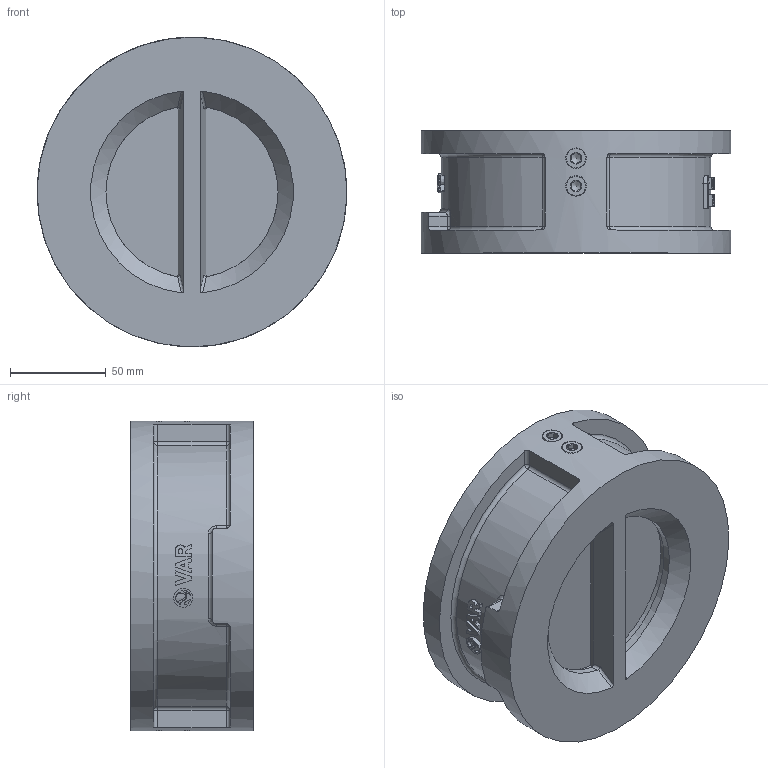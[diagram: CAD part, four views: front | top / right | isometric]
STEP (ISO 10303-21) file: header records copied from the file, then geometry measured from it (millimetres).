
FILE_DESCRIPTION(('STEP AP203'), '1');
FILE_NAME('VAR ZETKA 钺疣蝽 觌囡囗', '', ('UNSPECIFIED'), ('UNSPECIFIED'), 'C3D Converter', 'C3D Toolkit', '');
FILE_SCHEMA(('CONFIG_CONTROL_DESIGN'));
Length unit declared in the file: millimetre
Assembly tree (18 placements, depth 2):
  (unnamed)
    (unnamed)
    (unnamed)  x2
    (unnamed)  x4
    (unnamed)
    (unnamed)  x2
    (unnamed)  x2
    (unnamed)  x2
    (unnamed)  x2
    (unnamed)  x2
Bounding box: 162 x 64 x 162 mm (x, y, z)
Volume: 641957.4 mm3; surface area: 158887.5 mm2
Topology: 33 solids, 33 shells, 562 faces, 1372 edges, 890 vertices
Faces by surface type: plane 251, extrusion 138, cylinder 117, bspline 20, cone 18, sphere 10, torus 8
Full cylindrical faces by diameter (mm): 2 x2, 4 x4, 6 x8, 9.72 x16, 9.868 x1, 10 x4, 10.8 x4, 15.72 x6, 109.5 x1, 117 x2, 162 x1
Entity records: 30447 total; most frequent: CARTESIAN_POINT 17606, ORIENTED_EDGE 2118, DIRECTION 1635, EDGE_CURVE 1059, VERTEX_POINT 711, VECTOR 563, AXIS2_PLACEMENT_3D 536, EDGE_LOOP 534
